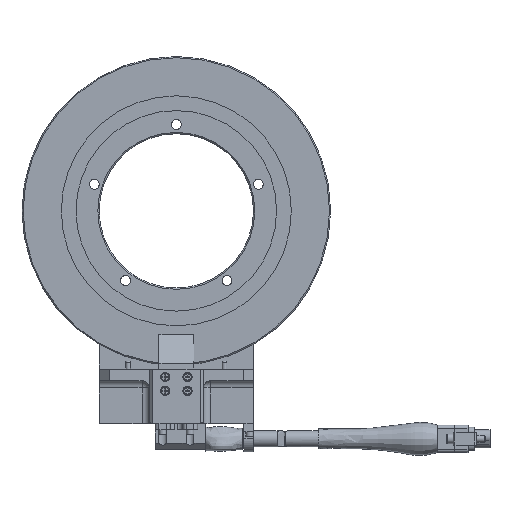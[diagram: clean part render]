
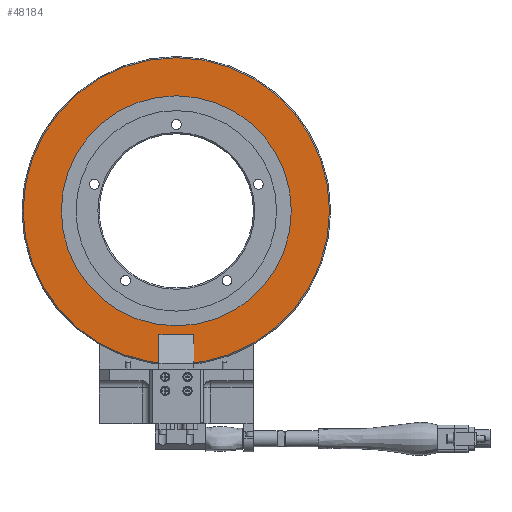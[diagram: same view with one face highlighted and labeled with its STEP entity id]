
A CAD part, front view. The second image highlights one B-rep face of the part: STEP entity #48184.
In plain terms, the highlighted planar face has unit normal (0, -1, 0).
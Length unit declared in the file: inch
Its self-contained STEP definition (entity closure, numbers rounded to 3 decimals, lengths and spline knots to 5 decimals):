
#46 = FACE_BOUND ( 'NONE', #60793, .T. ) ;
#11219 = EDGE_LOOP ( 'NONE', ( #11691 ) ) ;
#11691 = ORIENTED_EDGE ( 'NONE', *, *, #86568, .T. ) ;
#18545 = DIRECTION ( 'NONE',  ( 1., 0., 0. ) ) ;
#32346 = CARTESIAN_POINT ( 'NONE',  ( 0., 0.005, 1.491 ) ) ;
#33230 = CIRCLE ( 'NONE', #53538, 1.491 ) ;
#33549 = CARTESIAN_POINT ( 'NONE',  ( 1.985, 0.005, 0. ) ) ;
#35875 = EDGE_CURVE ( 'NONE', #79034, #79034, #33230, .T. ) ;
#38973 = ORIENTED_EDGE ( 'NONE', *, *, #35875, .T. ) ;
#42408 = FACE_OUTER_BOUND ( 'NONE', #11219, .T. ) ;
#48184 = ADVANCED_FACE ( 'NONE', ( #42408, #46 ), #56711, .F. ) ;
#53538 = AXIS2_PLACEMENT_3D ( 'NONE', #93495, #69053, #101513 ) ;
#56711 = PLANE ( 'NONE',  #81148 ) ;
#56799 = DIRECTION ( 'NONE',  ( 1., 0., 0. ) ) ;
#59341 = DIRECTION ( 'NONE',  ( 0., 1., 0. ) ) ;
#59841 = CARTESIAN_POINT ( 'NONE',  ( 0., 0.005, 0. ) ) ;
#60793 = EDGE_LOOP ( 'NONE', ( #38973 ) ) ;
#62231 = CIRCLE ( 'NONE', #85919, 1.985 ) ;
#69053 = DIRECTION ( 'NONE',  ( 0., 1., 0. ) ) ;
#79034 = VERTEX_POINT ( 'NONE', #32346 ) ;
#81148 = AXIS2_PLACEMENT_3D ( 'NONE', #59841, #59341, #18545 ) ;
#83830 = VERTEX_POINT ( 'NONE', #33549 ) ;
#85919 = AXIS2_PLACEMENT_3D ( 'NONE', #104120, #104633, #56799 ) ;
#86568 = EDGE_CURVE ( 'NONE', #83830, #83830, #62231, .T. ) ;
#93495 = CARTESIAN_POINT ( 'NONE',  ( 0., 0.005, 0. ) ) ;
#101513 = DIRECTION ( 'NONE',  ( 0., 0., 1. ) ) ;
#104120 = CARTESIAN_POINT ( 'NONE',  ( 0., 0.005, 0. ) ) ;
#104633 = DIRECTION ( 'NONE',  ( 0., -1., 0. ) ) ;
